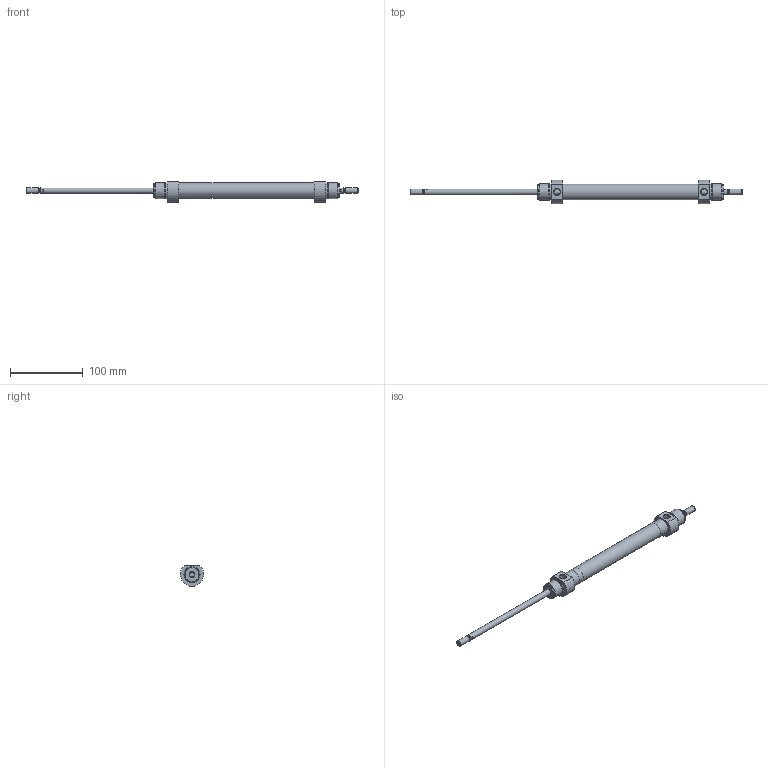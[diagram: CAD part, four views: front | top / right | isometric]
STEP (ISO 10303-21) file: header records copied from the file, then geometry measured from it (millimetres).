
FILE_DESCRIPTION( ( 'STEP AP203' ), '1' );
FILE_NAME( '//expscmdclustefs.cadenas.external/client_exchange/iodir/jobs/output/wkb68460796_no0/STEP/M101-020-0150-M__0__2_03.stp', ' ', ( ' ' ), ( ' ' ), 'PSStep 15.0.47', 'PARTsolutions', ' ' );
FILE_SCHEMA( ( 'CONFIG_CONTROL_DESIGN' ) );
Length unit declared in the file: millimetre
Products named in the file (3): M101-020-0150-M [0]; HI_M101-020-0150-M-[0]-z; HI_M101-020-0150-M-[0]-k
Assembly tree (2 placements, depth 2):
  M101-020-0150-M [0]
    HI_M101-020-0150-M-[0]-z
    HI_M101-020-0150-M-[0]-k
Bounding box: 456 x 32 x 28 mm (x, y, z)
Volume: 75380.9 mm3; surface area: 46137.8 mm2
Topology: 2 solids, 2 shells, 65 faces, 129 edges, 80 vertices
Faces by surface type: plane 26, cylinder 23, cone 14, torus 2
Full cylindrical faces by diameter (mm): 6.466 x2, 8 x6, 8.566 x2, 20 x2, 20.16 x4, 21.6 x1, 22 x4
Entity records: 1702 total; most frequent: CARTESIAN_POINT 356, DIRECTION 280, ORIENTED_EDGE 184, AXIS2_PLACEMENT_3D 128, EDGE_LOOP 116, EDGE_CURVE 92, FACE_OUTER_BOUND 88, VERTEX_POINT 76
